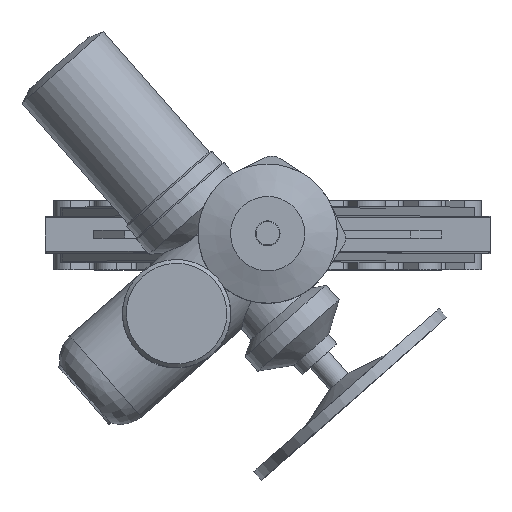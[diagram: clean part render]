
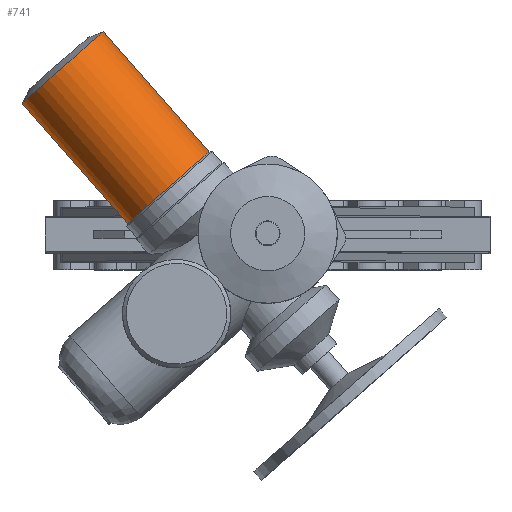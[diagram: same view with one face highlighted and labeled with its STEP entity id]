
A CAD part, top view. The second image highlights one B-rep face of the part: STEP entity #741.
In plain terms, the highlighted cylindrical face has radius 70 mm (diameter 140 mm), a full revolution.
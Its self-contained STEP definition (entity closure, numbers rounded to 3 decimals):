
#741=ADVANCED_FACE('',(#4047,#4049),#4051,.T.);
#4047=FACE_OUTER_BOUND('',#4048,.T.);
#4048=EDGE_LOOP('',(#6649));
#4049=FACE_OUTER_BOUND('',#4050,.T.);
#4050=EDGE_LOOP('',(#6650));
#4051=CYLINDRICAL_SURFACE('',#4052,70.);
#4052=AXIS2_PLACEMENT_3D('',#4053,#4054,#4055);
#4053=CARTESIAN_POINT('',(-265.237,215.126,1162.));
#4054=DIRECTION('',(0.661,-0.751,0.));
#4055=DIRECTION('',(0.,0.,1.));
#6649=ORIENTED_EDGE('',*,*,#8335,.F.);
#6650=ORIENTED_EDGE('',*,*,#8374,.T.);
#8335=EDGE_CURVE('',#9392,#9392,#9393,.T.);
#8374=EDGE_CURVE('',#9462,#9462,#9463,.T.);
#9392=VERTEX_POINT('',#12267);
#9393=CIRCLE('',#12268,70.);
#9462=VERTEX_POINT('',#12422);
#9463=CIRCLE('',#12423,70.);
#12267=CARTESIAN_POINT('',(-128.545,59.793,1232.));
#12268=AXIS2_PLACEMENT_3D('',#12269,#12270,#12271);
#12269=CARTESIAN_POINT('',(-128.545,59.793,1162.));
#12270=DIRECTION('',(0.661,-0.751,0.));
#12271=DIRECTION('',(0.,0.,1.));
#12422=CARTESIAN_POINT('',(-265.237,215.126,1232.));
#12423=AXIS2_PLACEMENT_3D('',#12424,#12425,#12426);
#12424=CARTESIAN_POINT('',(-265.237,215.126,1162.));
#12425=DIRECTION('',(0.661,-0.751,0.));
#12426=DIRECTION('',(0.,0.,1.));
